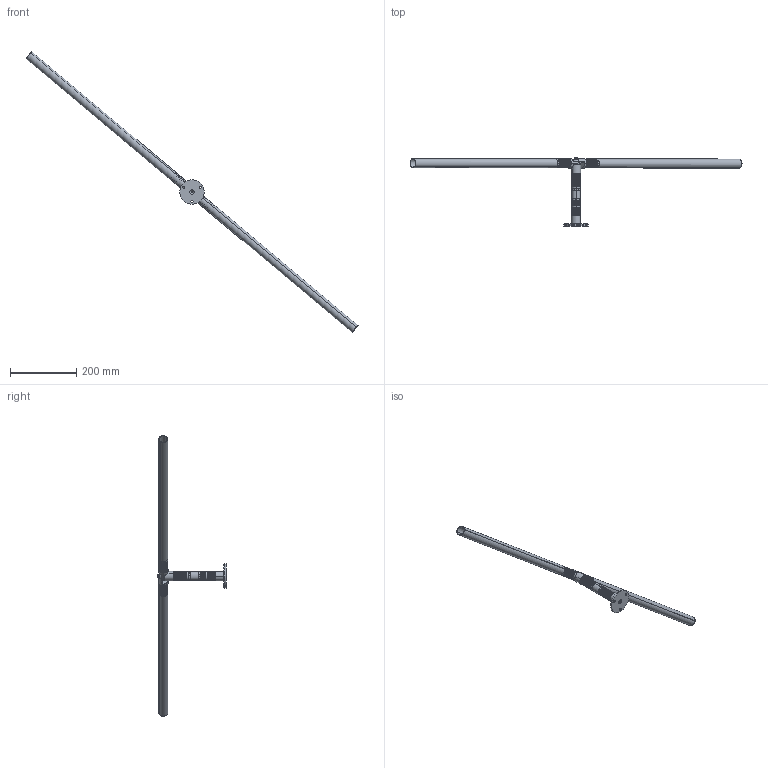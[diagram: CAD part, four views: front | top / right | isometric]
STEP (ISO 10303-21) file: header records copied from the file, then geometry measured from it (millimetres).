
FILE_DESCRIPTION (( 'STEP AP214' ), '1' );
FILE_NAME ('Single Sided Clevis to Male Clevis to Threaded End Connector and Threaded End Connector and Flange Connector Connection.STEP', '2013-08-19T15:20:56', ( 'ydmin' ), ( 'Microsoft' ), 'SwSTEP 2.0', 'SolidWorks 2013', '' );
FILE_SCHEMA (( 'AUTOMOTIVE_DESIGN' ));
Length unit declared in the file: inch
Products named in the file (8): 6.000 Inch Tube; Shorter Tube; 91255A542_91255A542; DRP-002-0511-00_LEFT-TO-RIGHT OUTER TUBE INSERT; DRP-002-0509-00_MALE YOKE TUBE INSERT; DRP-002-0513-00_FLAT END WITH THREADED HOLE; DRP-002-0506-00; Single Sided Clevis to Male Clevis to Threaded End Connector and Threaded End Connector and Flange Connector Connection
Assembly tree (9 placements, depth 2):
  Single Sided Clevis to Male Clevis to Threaded End Connector and Threaded End Connector and Flange Connector Connection
    DRP-002-0506-00
    DRP-002-0513-00_FLAT END WITH THREADED HOLE  x2
    DRP-002-0509-00_MALE YOKE TUBE INSERT
    DRP-002-0511-00_LEFT-TO-RIGHT OUTER TUBE INSERT
    91255A542_91255A542
    Shorter Tube
    6.000 Inch Tube  x2
Bounding box: 998.91 x 204.7 x 844.4 mm (x, y, z)
Volume: 225051.2 mm3; surface area: 283884.8 mm2
Topology: 9 solids, 9 shells, 1113 faces, 3092 edges, 1997 vertices
Faces by surface type: cylinder 524, plane 445, cone 107, torus 32, sphere 5
Entity records: 31237 total; most frequent: CARTESIAN_POINT 7834, DIRECTION 4971, ORIENTED_EDGE 4860, EDGE_CURVE 2430, AXIS2_PLACEMENT_3D 1786, VERTEX_POINT 1559, LINE 1399, VECTOR 1399
